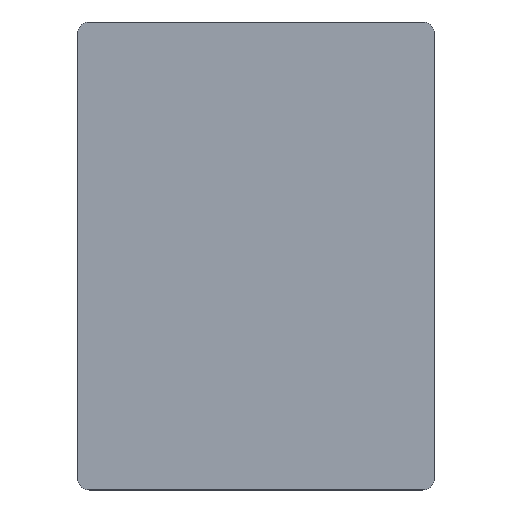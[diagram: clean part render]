
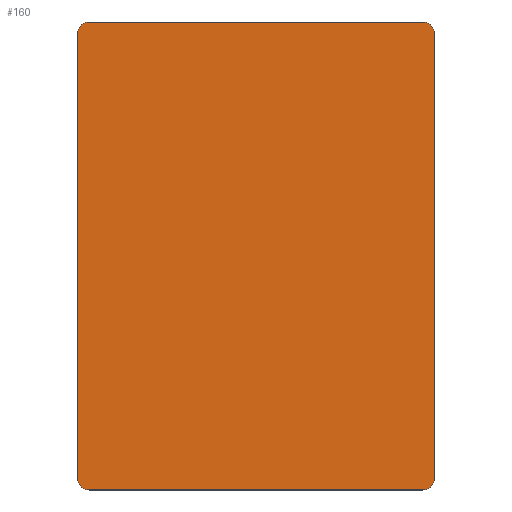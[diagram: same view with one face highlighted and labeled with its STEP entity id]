
A CAD part, top view. The second image highlights one B-rep face of the part: STEP entity #160.
In plain terms, the highlighted planar face has unit normal (0, 0, 1).
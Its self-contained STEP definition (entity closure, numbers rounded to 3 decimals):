
#1=DIRECTION('',(-1.,0.,0.));
#2=VECTOR('',#1,43.2);
#3=CARTESIAN_POINT('',(21.6,12.6,7.1));
#4=LINE('',#3,#2);
#5=DIRECTION('',(0.,1.,0.));
#6=VECTOR('',#5,57.6);
#7=CARTESIAN_POINT('',(-23.1,14.1,7.1));
#8=LINE('',#7,#6);
#9=DIRECTION('',(1.,0.,0.));
#10=VECTOR('',#9,43.2);
#11=CARTESIAN_POINT('',(-21.6,73.2,7.1));
#12=LINE('',#11,#10);
#13=DIRECTION('',(0.,-1.,0.));
#14=VECTOR('',#13,57.6);
#15=CARTESIAN_POINT('',(23.1,71.7,7.1));
#16=LINE('',#15,#14);
#30=CARTESIAN_POINT('',(21.6,14.1,7.1));
#31=DIRECTION('',(0.,0.,1.));
#32=DIRECTION('',(0.,-1.,0.));
#33=AXIS2_PLACEMENT_3D('',#30,#31,#32);
#48=CARTESIAN_POINT('',(21.6,71.7,7.1));
#49=DIRECTION('',(0.,0.,1.));
#50=DIRECTION('',(1.,0.,0.));
#51=AXIS2_PLACEMENT_3D('',#48,#49,#50);
#66=CARTESIAN_POINT('',(-21.6,71.7,7.1));
#67=DIRECTION('',(0.,0.,1.));
#68=DIRECTION('',(0.,1.,0.));
#69=AXIS2_PLACEMENT_3D('',#66,#67,#68);
#84=CARTESIAN_POINT('',(-21.6,14.1,7.1));
#85=DIRECTION('',(0.,0.,1.));
#86=DIRECTION('',(-1.,0.,0.));
#87=AXIS2_PLACEMENT_3D('',#84,#85,#86);
#106=CARTESIAN_POINT('',(23.1,14.1,7.1));
#108=VERTEX_POINT('',#106);
#111=CARTESIAN_POINT('',(21.6,12.6,7.1));
#112=VERTEX_POINT('',#111);
#114=CARTESIAN_POINT('',(21.6,73.2,7.1));
#116=VERTEX_POINT('',#114);
#119=CARTESIAN_POINT('',(23.1,71.7,7.1));
#120=VERTEX_POINT('',#119);
#122=CARTESIAN_POINT('',(-21.6,12.6,7.1));
#124=VERTEX_POINT('',#122);
#127=CARTESIAN_POINT('',(-23.1,14.1,7.1));
#128=VERTEX_POINT('',#127);
#130=CARTESIAN_POINT('',(-23.1,71.7,7.1));
#132=VERTEX_POINT('',#130);
#135=CARTESIAN_POINT('',(-21.6,73.2,7.1));
#136=VERTEX_POINT('',#135);
#137=CARTESIAN_POINT('',(-1.904,40.65,7.1));
#138=DIRECTION('',(0.,0.,1.));
#139=DIRECTION('',(1.,0.,0.));
#140=AXIS2_PLACEMENT_3D('',#137,#138,#139);
#141=PLANE('',#140);
#143=ORIENTED_EDGE('',*,*,#142,.F.);
#145=ORIENTED_EDGE('',*,*,#144,.T.);
#147=ORIENTED_EDGE('',*,*,#146,.F.);
#149=ORIENTED_EDGE('',*,*,#148,.T.);
#151=ORIENTED_EDGE('',*,*,#150,.F.);
#153=ORIENTED_EDGE('',*,*,#152,.T.);
#155=ORIENTED_EDGE('',*,*,#154,.F.);
#157=ORIENTED_EDGE('',*,*,#156,.T.);
#158=EDGE_LOOP('',(#143,#145,#147,#149,#151,#153,#155,#157));
#159=FACE_OUTER_BOUND('',#158,.F.);
#160=ADVANCED_FACE('',(#159),#141,.T.);
#34=CIRCLE('',#33,1.5);
#52=CIRCLE('',#51,1.5);
#70=CIRCLE('',#69,1.5);
#88=CIRCLE('',#87,1.5);
#142=EDGE_CURVE('',#112,#108,#34,.T.);
#144=EDGE_CURVE('',#112,#124,#4,.T.);
#146=EDGE_CURVE('',#128,#124,#88,.T.);
#148=EDGE_CURVE('',#128,#132,#8,.T.);
#150=EDGE_CURVE('',#136,#132,#70,.T.);
#152=EDGE_CURVE('',#136,#116,#12,.T.);
#154=EDGE_CURVE('',#120,#116,#52,.T.);
#156=EDGE_CURVE('',#120,#108,#16,.T.);
